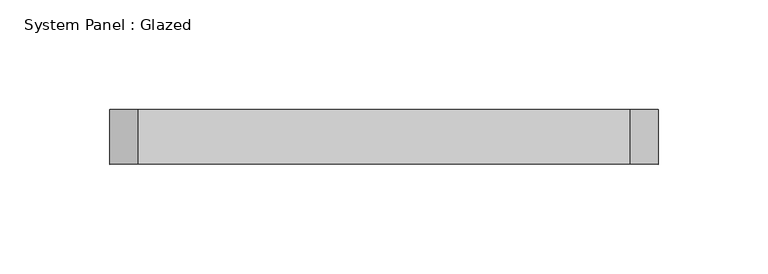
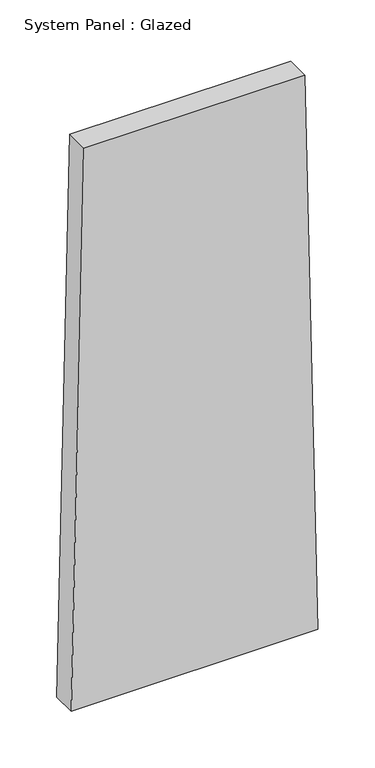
"""IFC4 building model written with IfcOpenShell, lengths in millimetres: plate geometry, System Panel : Glazed."""

from ifc_helpers import new_model, si_unit, frame, origin, place, context, project, spatial, polyline, outline, extrude, source, transform, mapped, element, save


def system_panel_glazed_f920294c(model_context):
    return source(origin(), model_context, "Body", "SweptSolid", [
        extrude(outline(polyline([(0.0, -125.2975482), (0.0, 125.2975482), (599.8559254, 112.1495918), (599.8559254, -112.1495918), (0.0, -125.2975482)])), frame((0.0, 24.5, 0.0), z_axis=(0.0, 1.0, 0.0), x_axis=(0.0, 0.0, 1.0)), (0.0, 0.0, 1.0), 25.0),
    ])


if __name__ == "__main__":
    model = new_model("IFC4")
    model_context = context("Model", 3, world=origin())
    ifc_project = project(units=[si_unit("LENGTHUNIT", "METRE", prefix="MILLI")], contexts=[model_context])
    site = spatial("IfcSite", under=ifc_project)
    building = spatial("IfcBuilding", under=site)
    placement = place(None, origin())
    system_panel_glazed_shape = system_panel_glazed_f920294c(model_context)
    element("IfcPlate", 1, ObjectType="System Panel : Glazed", at=placement, inside=building, context=model_context, shape_type="MappedRepresentation", body=[
        mapped(system_panel_glazed_shape, transform((0.0, 0.0, 0.0), x_axis=(1.0, 0.0, 0.0), y_axis=(0.0, 1.0, 0.0), z_axis=(0.0, 0.0, 1.0))),
    ])
    save(model, "model.ifc")
